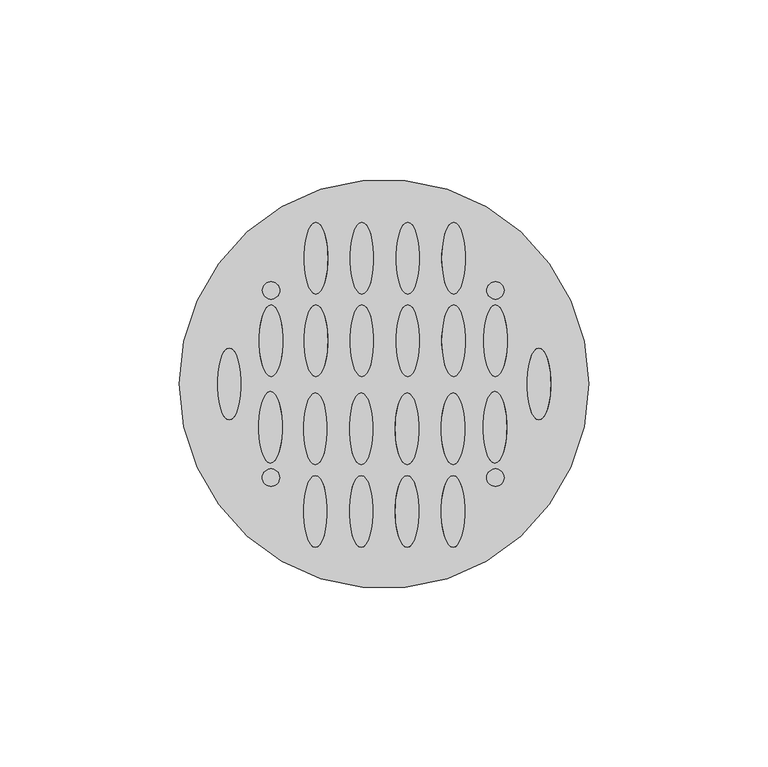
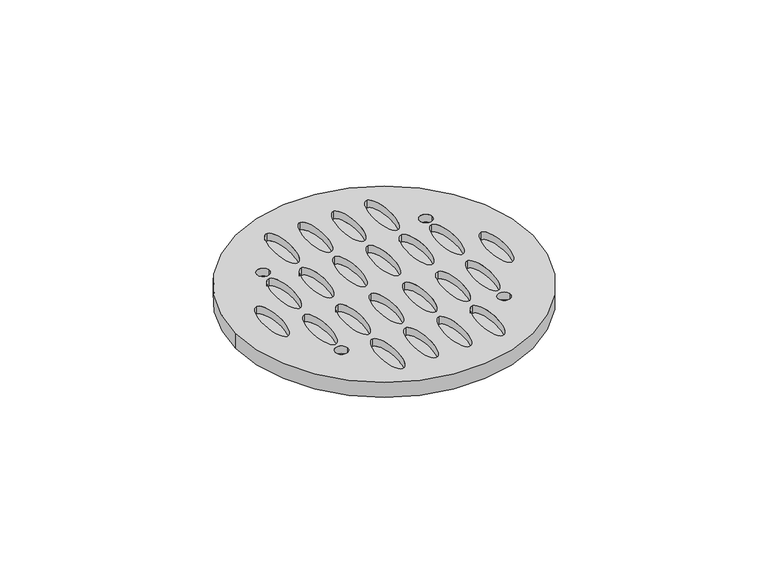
"""IFC4 building model written with IfcOpenShell, lengths in millimetres: pipe fitting geometry, AmancoWavin_Unionesdetubería_SanitarioPVCColaderaInstaRex : Cementar 110 mm."""

from ifc_helpers import new_model, si_unit, point, frame, origin, place, context, project, spatial, polyline, circle_curve, ellipse_curve, trimmed, source, transform, mapped, element, save
from ifc_brep_helpers import plane_surface, cylinder_surface, revolved_surface, extruded_surface, advanced_brep


def pipe_fitting_ac765421(model_context):
    return source(origin(), model_context, "Body", "AdvancedBrep", [
        advanced_brep(
        [(-57.0, 0.0, 11.1), (57.0, 0.0, 11.1), (-43.125, 10.0, 11.1), (-43.125, -10.0, 11.1), (-31.4848922, 22.0632684, 11.1), (-31.4848922, 2.0632684, 11.1), (-31.6489621, -2.0699379, 11.1), (-31.6489621, -22.0699379, 11.1), (-29.0574539, 26.0632635, 11.1), (-33.8998162, 26.0632635, 11.1), (-29.068906, -26.0667815, 11.1), (-33.9112683, -26.0667815, 11.1), (-18.9848922, 22.0632684, 11.1), (-18.9848922, 2.0632684, 11.1), (-19.1489621, -2.5, 11.1), (-19.1489621, -22.5, 11.1), (-18.9848922, 45.0632684, 11.1), (-18.9848922, 25.0632684, 11.1), (-19.1489621, -25.5, 11.1), (-19.1489621, -45.5, 11.1), (-6.1848922, 22.0632684, 11.1), (-6.1848922, 2.0632684, 11.1), (-6.3489621, -2.5, 11.1), (-6.3489621, -22.5, 11.1), (-6.1848922, 45.0632684, 11.1), (-6.1848922, 25.0632684, 11.1), (-6.3489621, -25.5, 11.1), (-6.3489621, -45.5, 11.1), (6.6151078, 22.0632684, 11.1), (6.6151078, 2.0632684, 11.1), (6.4510379, -2.5, 11.1), (6.4510379, -22.5, 11.1), (6.6151078, 45.0632684, 11.1), (6.6151078, 25.0632684, 11.1), (6.4510379, -25.5, 11.1), (6.4510379, -45.5, 11.1), (19.4151078, 22.0632684, 11.1), (19.4151078, 2.0632684, 11.1), (19.2510379, -2.5, 11.1), (19.2510379, -22.5, 11.1), (19.4151078, 45.0632684, 11.1), (19.4151078, 25.0632684, 11.1), (19.2510379, -25.5, 11.1), (19.2510379, -45.5, 11.1), (31.0501776, 22.0632684, 11.1), (31.0501776, 2.0632684, 11.1), (30.8861078, -2.0699379, 11.1), (30.8861078, -22.0699379, 11.1), (33.477616, 26.0632635, 11.1), (28.6352536, 26.0632635, 11.1), (33.4661638, -26.0667815, 11.1), (28.6238015, -26.0667815, 11.1), (43.1436396, 10.0, 11.1), (43.1436396, -10.0, 11.1), (-57.0, 0.0, 5.0), (57.0, 0.0, 5.0), (-43.125, -10.0, 7.9881592), (-43.125, 10.0, 7.9881592), (-31.4848922, 2.0632684, 7.9881592), (-31.4848922, 22.0632684, 7.9881592), (-31.6489621, -22.0699379, 7.9881592), (-31.6489621, -2.0699379, 7.9881592), (-33.8998162, 26.0632635, 7.9881592), (-29.0574539, 26.0632635, 7.9881592), (-33.9112683, -26.0667815, 7.9881592), (-29.068906, -26.0667815, 7.9881592), (-18.9848922, 2.0632684, 7.9881592), (-18.9848922, 22.0632684, 7.9881592), (-19.1489621, -22.5, 7.9881592), (-19.1489621, -2.5, 7.9881592), (-18.9848922, 25.0632684, 7.9881592), (-18.9848922, 45.0632684, 7.9881592), (-19.1489621, -45.5, 7.9881592), (-19.1489621, -25.5, 7.9881592), (-6.1848922, 2.0632684, 7.9881592), (-6.1848922, 22.0632684, 7.9881592), (-6.3489621, -22.5, 7.9881592), (-6.3489621, -2.5, 7.9881592), (-6.1848922, 25.0632684, 7.9881592), (-6.1848922, 45.0632684, 7.9881592), (-6.3489621, -45.5, 7.9881592), (-6.3489621, -25.5, 7.9881592), (6.6151078, 2.0632684, 7.9881592), (6.6151078, 22.0632684, 7.9881592), (6.4510379, -22.5, 7.9881592), (6.4510379, -2.5, 7.9881592), (6.6151078, 25.0632684, 7.9881592), (6.6151078, 45.0632684, 7.9881592), (6.4510379, -45.5, 7.9881592), (6.4510379, -25.5, 7.9881592), (19.4151078, 2.0632684, 7.9881592), (19.4151078, 22.0632684, 7.9881592), (19.2510379, -22.5, 7.9881592), (19.2510379, -2.5, 7.9881592), (19.4151078, 25.0632684, 7.9881592), (19.4151078, 45.0632684, 7.9881592), (19.2510379, -45.5, 7.9881592), (19.2510379, -25.5, 7.9881592), (31.0501776, 2.0632684, 7.9881592), (31.0501776, 22.0632684, 7.9881592), (30.8861078, -22.0699379, 7.9881592), (30.8861078, -2.0699379, 7.9881592), (28.6352536, 26.0632635, 7.9881592), (33.477616, 26.0632635, 7.9881592), (28.6238015, -26.0667815, 7.9881592), (33.4661638, -26.0667815, 7.9881592), (43.1436396, -10.0, 7.9881592), (43.1436396, 10.0, 7.9881592)],
        [
            (0, 1, circle_curve(frame((0.0, 0.0, 11.1), z_axis=(0.0, 0.0, 1.0), x_axis=(1.0, 0.0, 0.0)), 57.0)),
            (1, 0, circle_curve(frame((0.0, 0.0, 11.1), z_axis=(0.0, 0.0, 1.0), x_axis=(1.0, 0.0, 0.0)), 57.0)),
            (2, 3, ellipse_curve(frame((-43.125, 0.0, 11.1), z_axis=(0.0, 0.0, -1.0), x_axis=(0.0, 1.0, 0.0)), 10.0, 3.2735089)),
            (3, 2, ellipse_curve(frame((-43.125, 0.0, 11.1), z_axis=(0.0, 0.0, -1.0), x_axis=(0.0, 1.0, 0.0)), 10.0, 3.2735089)),
            (4, 5, ellipse_curve(frame((-31.4848922, 12.0632684, 11.1), z_axis=(0.0, 0.0, -1.0), x_axis=(0.0, 1.0, 0.0)), 10.0, 3.2735089)),
            (5, 4, ellipse_curve(frame((-31.4848922, 12.0632684, 11.1), z_axis=(0.0, 0.0, -1.0), x_axis=(0.0, 1.0, 0.0)), 10.0, 3.2735089)),
            (6, 7, ellipse_curve(frame((-31.6489621, -12.0699379, 11.1), z_axis=(0.0, 0.0, -1.0), x_axis=(0.0, 1.0, 0.0)), 10.0, 3.2735089)),
            (7, 6, ellipse_curve(frame((-31.6489621, -12.0699379, 11.1), z_axis=(0.0, 0.0, -1.0), x_axis=(0.0, 1.0, 0.0)), 10.0, 3.2735089)),
            (8, 9, circle_curve(frame((-31.478635, 26.0632635, 11.1), z_axis=(0.0, 0.0, -1.0), x_axis=(1.0, 0.0, 0.0)), 2.4211812)),
            (9, 8, circle_curve(frame((-31.478635, 26.0632635, 11.1), z_axis=(0.0, 0.0, -1.0), x_axis=(1.0, 0.0, 0.0)), 2.4211812)),
            (10, 11, circle_curve(frame((-31.4900871, -26.0667815, 11.1), z_axis=(0.0, 0.0, -1.0), x_axis=(1.0, 0.0, 0.0)), 2.4211812)),
            (11, 10, circle_curve(frame((-31.4900871, -26.0667815, 11.1), z_axis=(0.0, 0.0, -1.0), x_axis=(1.0, 0.0, 0.0)), 2.4211812)),
            (12, 13, ellipse_curve(frame((-18.9848922, 12.0632684, 11.1), z_axis=(0.0, 0.0, -1.0), x_axis=(0.0, 1.0, 0.0)), 10.0, 3.2735089)),
            (13, 12, ellipse_curve(frame((-18.9848922, 12.0632684, 11.1), z_axis=(0.0, 0.0, -1.0), x_axis=(0.0, 1.0, 0.0)), 10.0, 3.2735089)),
            (14, 15, ellipse_curve(frame((-19.1489621, -12.5, 11.1), z_axis=(0.0, 0.0, -1.0), x_axis=(0.0, 1.0, 0.0)), 10.0, 3.2735089)),
            (15, 14, ellipse_curve(frame((-19.1489621, -12.5, 11.1), z_axis=(0.0, 0.0, -1.0), x_axis=(0.0, 1.0, 0.0)), 10.0, 3.2735089)),
            (16, 17, ellipse_curve(frame((-18.9848922, 35.0632684, 11.1), z_axis=(0.0, 0.0, -1.0), x_axis=(0.0, 1.0, 0.0)), 10.0, 3.2735089)),
            (17, 16, ellipse_curve(frame((-18.9848922, 35.0632684, 11.1), z_axis=(0.0, 0.0, -1.0), x_axis=(0.0, 1.0, 0.0)), 10.0, 3.2735089)),
            (18, 19, ellipse_curve(frame((-19.1489621, -35.5, 11.1), z_axis=(0.0, 0.0, -1.0), x_axis=(0.0, 1.0, 0.0)), 10.0, 3.2735089)),
            (19, 18, ellipse_curve(frame((-19.1489621, -35.5, 11.1), z_axis=(0.0, 0.0, -1.0), x_axis=(0.0, 1.0, 0.0)), 10.0, 3.2735089)),
            (20, 21, ellipse_curve(frame((-6.1848922, 12.0632684, 11.1), z_axis=(0.0, 0.0, -1.0), x_axis=(0.0, 1.0, 0.0)), 10.0, 3.2735089)),
            (21, 20, ellipse_curve(frame((-6.1848922, 12.0632684, 11.1), z_axis=(0.0, 0.0, -1.0), x_axis=(0.0, 1.0, 0.0)), 10.0, 3.2735089)),
            (22, 23, ellipse_curve(frame((-6.3489621, -12.5, 11.1), z_axis=(0.0, 0.0, -1.0), x_axis=(0.0, 1.0, 0.0)), 10.0, 3.2735089)),
            (23, 22, ellipse_curve(frame((-6.3489621, -12.5, 11.1), z_axis=(0.0, 0.0, -1.0), x_axis=(0.0, 1.0, 0.0)), 10.0, 3.2735089)),
            (24, 25, ellipse_curve(frame((-6.1848922, 35.0632684, 11.1), z_axis=(0.0, 0.0, -1.0), x_axis=(0.0, 1.0, 0.0)), 10.0, 3.2735089)),
            (25, 24, ellipse_curve(frame((-6.1848922, 35.0632684, 11.1), z_axis=(0.0, 0.0, -1.0), x_axis=(0.0, 1.0, 0.0)), 10.0, 3.2735089)),
            (26, 27, ellipse_curve(frame((-6.3489621, -35.5, 11.1), z_axis=(0.0, 0.0, -1.0), x_axis=(0.0, 1.0, 0.0)), 10.0, 3.2735089)),
            (27, 26, ellipse_curve(frame((-6.3489621, -35.5, 11.1), z_axis=(0.0, 0.0, -1.0), x_axis=(0.0, 1.0, 0.0)), 10.0, 3.2735089)),
            (28, 29, ellipse_curve(frame((6.6151078, 12.0632684, 11.1), z_axis=(0.0, 0.0, -1.0), x_axis=(0.0, 1.0, 0.0)), 10.0, 3.2735089)),
            (29, 28, ellipse_curve(frame((6.6151078, 12.0632684, 11.1), z_axis=(0.0, 0.0, -1.0), x_axis=(0.0, 1.0, 0.0)), 10.0, 3.2735089)),
            (30, 31, ellipse_curve(frame((6.4510379, -12.5, 11.1), z_axis=(0.0, 0.0, -1.0), x_axis=(0.0, 1.0, 0.0)), 10.0, 3.2735089)),
            (31, 30, ellipse_curve(frame((6.4510379, -12.5, 11.1), z_axis=(0.0, 0.0, -1.0), x_axis=(0.0, 1.0, 0.0)), 10.0, 3.2735089)),
            (32, 33, ellipse_curve(frame((6.6151078, 35.0632684, 11.1), z_axis=(0.0, 0.0, -1.0), x_axis=(0.0, 1.0, 0.0)), 10.0, 3.2735089)),
            (33, 32, ellipse_curve(frame((6.6151078, 35.0632684, 11.1), z_axis=(0.0, 0.0, -1.0), x_axis=(0.0, 1.0, 0.0)), 10.0, 3.2735089)),
            (34, 35, ellipse_curve(frame((6.4510379, -35.5, 11.1), z_axis=(0.0, 0.0, -1.0), x_axis=(0.0, 1.0, 0.0)), 10.0, 3.2735089)),
            (35, 34, ellipse_curve(frame((6.4510379, -35.5, 11.1), z_axis=(0.0, 0.0, -1.0), x_axis=(0.0, 1.0, 0.0)), 10.0, 3.2735089)),
            (36, 37, ellipse_curve(frame((19.4151078, 12.0632684, 11.1), z_axis=(0.0, 0.0, -1.0), x_axis=(0.0, 1.0, 0.0)), 10.0, 3.2735089)),
            (37, 36, ellipse_curve(frame((19.4151078, 12.0632684, 11.1), z_axis=(0.0, 0.0, -1.0), x_axis=(0.0, 1.0, 0.0)), 10.0, 3.2735089)),
            (38, 39, ellipse_curve(frame((19.2510379, -12.5, 11.1), z_axis=(0.0, 0.0, -1.0), x_axis=(0.0, 1.0, 0.0)), 10.0, 3.2735089)),
            (39, 38, ellipse_curve(frame((19.2510379, -12.5, 11.1), z_axis=(0.0, 0.0, -1.0), x_axis=(0.0, 1.0, 0.0)), 10.0, 3.2735089)),
            (40, 41, ellipse_curve(frame((19.4151078, 35.0632684, 11.1), z_axis=(0.0, 0.0, -1.0), x_axis=(0.0, 1.0, 0.0)), 10.0, 3.2735089)),
            (41, 40, ellipse_curve(frame((19.4151078, 35.0632684, 11.1), z_axis=(0.0, 0.0, -1.0), x_axis=(0.0, 1.0, 0.0)), 10.0, 3.2735089)),
            (42, 43, ellipse_curve(frame((19.2510379, -35.5, 11.1), z_axis=(0.0, 0.0, -1.0), x_axis=(0.0, 1.0, 0.0)), 10.0, 3.2735089)),
            (43, 42, ellipse_curve(frame((19.2510379, -35.5, 11.1), z_axis=(0.0, 0.0, -1.0), x_axis=(0.0, 1.0, 0.0)), 10.0, 3.2735089)),
            (44, 45, ellipse_curve(frame((31.0501776, 12.0632684, 11.1), z_axis=(0.0, 0.0, -1.0), x_axis=(0.0, 1.0, 0.0)), 10.0, 3.2735089)),
            (45, 44, ellipse_curve(frame((31.0501776, 12.0632684, 11.1), z_axis=(0.0, 0.0, -1.0), x_axis=(0.0, 1.0, 0.0)), 10.0, 3.2735089)),
            (46, 47, ellipse_curve(frame((30.8861078, -12.0699379, 11.1), z_axis=(0.0, 0.0, -1.0), x_axis=(0.0, 1.0, 0.0)), 10.0, 3.2735089)),
            (47, 46, ellipse_curve(frame((30.8861078, -12.0699379, 11.1), z_axis=(0.0, 0.0, -1.0), x_axis=(0.0, 1.0, 0.0)), 10.0, 3.2735089)),
            (48, 49, circle_curve(frame((31.0564348, 26.0632635, 11.1), z_axis=(0.0, 0.0, -1.0), x_axis=(1.0, 0.0, 0.0)), 2.4211812)),
            (49, 48, circle_curve(frame((31.0564348, 26.0632635, 11.1), z_axis=(0.0, 0.0, -1.0), x_axis=(1.0, 0.0, 0.0)), 2.4211812)),
            (50, 51, circle_curve(frame((31.0449827, -26.0667815, 11.1), z_axis=(0.0, 0.0, -1.0), x_axis=(1.0, 0.0, 0.0)), 2.4211812)),
            (51, 50, circle_curve(frame((31.0449827, -26.0667815, 11.1), z_axis=(0.0, 0.0, -1.0), x_axis=(1.0, 0.0, 0.0)), 2.4211812)),
            (52, 53, ellipse_curve(frame((43.1436396, 0.0, 11.1), z_axis=(0.0, 0.0, -1.0), x_axis=(0.0, 1.0, 0.0)), 10.0, 3.2735089)),
            (53, 52, ellipse_curve(frame((43.1436396, 0.0, 11.1), z_axis=(0.0, 0.0, -1.0), x_axis=(0.0, 1.0, 0.0)), 10.0, 3.2735089)),
            (54, 55, circle_curve(frame((0.0, 0.0, 5.0), z_axis=(0.0, 0.0, -1.0), x_axis=(1.0, 0.0, 0.0)), 57.0)),
            (55, 54, circle_curve(frame((0.0, 0.0, 5.0), z_axis=(0.0, 0.0, -1.0), x_axis=(1.0, 0.0, 0.0)), 57.0)),
            (0, 54),
            (55, 1),
            (56, 57, ellipse_curve(frame((-43.125, 0.0, 7.9881592), z_axis=(0.0, 0.0, 1.0), x_axis=(0.0, 1.0, 0.0)), 10.0, 3.2735089)),
            (57, 56, ellipse_curve(frame((-43.125, 0.0, 7.9881592), z_axis=(0.0, 0.0, 1.0), x_axis=(0.0, 1.0, 0.0)), 10.0, 3.2735089)),
            (58, 59, ellipse_curve(frame((-31.4848922, 12.0632684, 7.9881592), z_axis=(0.0, 0.0, 1.0), x_axis=(0.0, 1.0, 0.0)), 10.0, 3.2735089)),
            (59, 58, ellipse_curve(frame((-31.4848922, 12.0632684, 7.9881592), z_axis=(0.0, 0.0, 1.0), x_axis=(0.0, 1.0, 0.0)), 10.0, 3.2735089)),
            (60, 61, ellipse_curve(frame((-31.6489621, -12.0699379, 7.9881592), z_axis=(0.0, 0.0, 1.0), x_axis=(0.0, 1.0, 0.0)), 10.0, 3.2735089)),
            (61, 60, ellipse_curve(frame((-31.6489621, -12.0699379, 7.9881592), z_axis=(0.0, 0.0, 1.0), x_axis=(0.0, 1.0, 0.0)), 10.0, 3.2735089)),
            (62, 63, circle_curve(frame((-31.478635, 26.0632635, 7.9881592), z_axis=(0.0, 0.0, 1.0), x_axis=(1.0, 0.0, 0.0)), 2.4211812)),
            (63, 62, circle_curve(frame((-31.478635, 26.0632635, 7.9881592), z_axis=(0.0, 0.0, 1.0), x_axis=(1.0, 0.0, 0.0)), 2.4211812)),
            (64, 65, circle_curve(frame((-31.4900871, -26.0667815, 7.9881592), z_axis=(0.0, 0.0, 1.0), x_axis=(1.0, 0.0, 0.0)), 2.4211812)),
            (65, 64, circle_curve(frame((-31.4900871, -26.0667815, 7.9881592), z_axis=(0.0, 0.0, 1.0), x_axis=(1.0, 0.0, 0.0)), 2.4211812)),
            (66, 67, ellipse_curve(frame((-18.9848922, 12.0632684, 7.9881592), z_axis=(0.0, 0.0, 1.0), x_axis=(0.0, 1.0, 0.0)), 10.0, 3.2735089)),
            (67, 66, ellipse_curve(frame((-18.9848922, 12.0632684, 7.9881592), z_axis=(0.0, 0.0, 1.0), x_axis=(0.0, 1.0, 0.0)), 10.0, 3.2735089)),
            (68, 69, ellipse_curve(frame((-19.1489621, -12.5, 7.9881592), z_axis=(0.0, 0.0, 1.0), x_axis=(0.0, 1.0, 0.0)), 10.0, 3.2735089)),
            (69, 68, ellipse_curve(frame((-19.1489621, -12.5, 7.9881592), z_axis=(0.0, 0.0, 1.0), x_axis=(0.0, 1.0, 0.0)), 10.0, 3.2735089)),
            (70, 71, ellipse_curve(frame((-18.9848922, 35.0632684, 7.9881592), z_axis=(0.0, 0.0, 1.0), x_axis=(0.0, 1.0, 0.0)), 10.0, 3.2735089)),
            (71, 70, ellipse_curve(frame((-18.9848922, 35.0632684, 7.9881592), z_axis=(0.0, 0.0, 1.0), x_axis=(0.0, 1.0, 0.0)), 10.0, 3.2735089)),
            (72, 73, ellipse_curve(frame((-19.1489621, -35.5, 7.9881592), z_axis=(0.0, 0.0, 1.0), x_axis=(0.0, 1.0, 0.0)), 10.0, 3.2735089)),
            (73, 72, ellipse_curve(frame((-19.1489621, -35.5, 7.9881592), z_axis=(0.0, 0.0, 1.0), x_axis=(0.0, 1.0, 0.0)), 10.0, 3.2735089)),
            (74, 75, ellipse_curve(frame((-6.1848922, 12.0632684, 7.9881592), z_axis=(0.0, 0.0, 1.0), x_axis=(0.0, 1.0, 0.0)), 10.0, 3.2735089)),
            (75, 74, ellipse_curve(frame((-6.1848922, 12.0632684, 7.9881592), z_axis=(0.0, 0.0, 1.0), x_axis=(0.0, 1.0, 0.0)), 10.0, 3.2735089)),
            (76, 77, ellipse_curve(frame((-6.3489621, -12.5, 7.9881592), z_axis=(0.0, 0.0, 1.0), x_axis=(0.0, 1.0, 0.0)), 10.0, 3.2735089)),
            (77, 76, ellipse_curve(frame((-6.3489621, -12.5, 7.9881592), z_axis=(0.0, 0.0, 1.0), x_axis=(0.0, 1.0, 0.0)), 10.0, 3.2735089)),
            (78, 79, ellipse_curve(frame((-6.1848922, 35.0632684, 7.9881592), z_axis=(0.0, 0.0, 1.0), x_axis=(0.0, 1.0, 0.0)), 10.0, 3.2735089)),
            (79, 78, ellipse_curve(frame((-6.1848922, 35.0632684, 7.9881592), z_axis=(0.0, 0.0, 1.0), x_axis=(0.0, 1.0, 0.0)), 10.0, 3.2735089)),
            (80, 81, ellipse_curve(frame((-6.3489621, -35.5, 7.9881592), z_axis=(0.0, 0.0, 1.0), x_axis=(0.0, 1.0, 0.0)), 10.0, 3.2735089)),
            (81, 80, ellipse_curve(frame((-6.3489621, -35.5, 7.9881592), z_axis=(0.0, 0.0, 1.0), x_axis=(0.0, 1.0, 0.0)), 10.0, 3.2735089)),
            (82, 83, ellipse_curve(frame((6.6151078, 12.0632684, 7.9881592), z_axis=(0.0, 0.0, 1.0), x_axis=(0.0, 1.0, 0.0)), 10.0, 3.2735089)),
            (83, 82, ellipse_curve(frame((6.6151078, 12.0632684, 7.9881592), z_axis=(0.0, 0.0, 1.0), x_axis=(0.0, 1.0, 0.0)), 10.0, 3.2735089)),
            (84, 85, ellipse_curve(frame((6.4510379, -12.5, 7.9881592), z_axis=(0.0, 0.0, 1.0), x_axis=(0.0, 1.0, 0.0)), 10.0, 3.2735089)),
            (85, 84, ellipse_curve(frame((6.4510379, -12.5, 7.9881592), z_axis=(0.0, 0.0, 1.0), x_axis=(0.0, 1.0, 0.0)), 10.0, 3.2735089)),
            (86, 87, ellipse_curve(frame((6.6151078, 35.0632684, 7.9881592), z_axis=(0.0, 0.0, 1.0), x_axis=(0.0, 1.0, 0.0)), 10.0, 3.2735089)),
            (87, 86, ellipse_curve(frame((6.6151078, 35.0632684, 7.9881592), z_axis=(0.0, 0.0, 1.0), x_axis=(0.0, 1.0, 0.0)), 10.0, 3.2735089)),
            (88, 89, ellipse_curve(frame((6.4510379, -35.5, 7.9881592), z_axis=(0.0, 0.0, 1.0), x_axis=(0.0, 1.0, 0.0)), 10.0, 3.2735089)),
            (89, 88, ellipse_curve(frame((6.4510379, -35.5, 7.9881592), z_axis=(0.0, 0.0, 1.0), x_axis=(0.0, 1.0, 0.0)), 10.0, 3.2735089)),
            (90, 91, ellipse_curve(frame((19.4151078, 12.0632684, 7.9881592), z_axis=(0.0, 0.0, 1.0), x_axis=(0.0, 1.0, 0.0)), 10.0, 3.2735089)),
            (91, 90, ellipse_curve(frame((19.4151078, 12.0632684, 7.9881592), z_axis=(0.0, 0.0, 1.0), x_axis=(0.0, 1.0, 0.0)), 10.0, 3.2735089)),
            (92, 93, ellipse_curve(frame((19.2510379, -12.5, 7.9881592), z_axis=(0.0, 0.0, 1.0), x_axis=(0.0, 1.0, 0.0)), 10.0, 3.2735089)),
            (93, 92, ellipse_curve(frame((19.2510379, -12.5, 7.9881592), z_axis=(0.0, 0.0, 1.0), x_axis=(0.0, 1.0, 0.0)), 10.0, 3.2735089)),
            (94, 95, ellipse_curve(frame((19.4151078, 35.0632684, 7.9881592), z_axis=(0.0, 0.0, 1.0), x_axis=(0.0, 1.0, 0.0)), 10.0, 3.2735089)),
            (95, 94, ellipse_curve(frame((19.4151078, 35.0632684, 7.9881592), z_axis=(0.0, 0.0, 1.0), x_axis=(0.0, 1.0, 0.0)), 10.0, 3.2735089)),
            (96, 97, ellipse_curve(frame((19.2510379, -35.5, 7.9881592), z_axis=(0.0, 0.0, 1.0), x_axis=(0.0, 1.0, 0.0)), 10.0, 3.2735089)),
            (97, 96, ellipse_curve(frame((19.2510379, -35.5, 7.9881592), z_axis=(0.0, 0.0, 1.0), x_axis=(0.0, 1.0, 0.0)), 10.0, 3.2735089)),
            (98, 99, ellipse_curve(frame((31.0501776, 12.0632684, 7.9881592), z_axis=(0.0, 0.0, 1.0), x_axis=(0.0, 1.0, 0.0)), 10.0, 3.2735089)),
            (99, 98, ellipse_curve(frame((31.0501776, 12.0632684, 7.9881592), z_axis=(0.0, 0.0, 1.0), x_axis=(0.0, 1.0, 0.0)), 10.0, 3.2735089)),
            (100, 101, ellipse_curve(frame((30.8861078, -12.0699379, 7.9881592), z_axis=(0.0, 0.0, 1.0), x_axis=(0.0, 1.0, 0.0)), 10.0, 3.2735089)),
            (101, 100, ellipse_curve(frame((30.8861078, -12.0699379, 7.9881592), z_axis=(0.0, 0.0, 1.0), x_axis=(0.0, 1.0, 0.0)), 10.0, 3.2735089)),
            (102, 103, circle_curve(frame((31.0564348, 26.0632635, 7.9881592), z_axis=(0.0, 0.0, 1.0), x_axis=(1.0, 0.0, 0.0)), 2.4211812)),
            (103, 102, circle_curve(frame((31.0564348, 26.0632635, 7.9881592), z_axis=(0.0, 0.0, 1.0), x_axis=(1.0, 0.0, 0.0)), 2.4211812)),
            (104, 105, circle_curve(frame((31.0449827, -26.0667815, 7.9881592), z_axis=(0.0, 0.0, 1.0), x_axis=(1.0, 0.0, 0.0)), 2.4211812)),
            (105, 104, circle_curve(frame((31.0449827, -26.0667815, 7.9881592), z_axis=(0.0, 0.0, 1.0), x_axis=(1.0, 0.0, 0.0)), 2.4211812)),
            (106, 107, ellipse_curve(frame((43.1436396, 0.0, 7.9881592), z_axis=(0.0, 0.0, 1.0), x_axis=(0.0, 1.0, 0.0)), 10.0, 3.2735089)),
            (107, 106, ellipse_curve(frame((43.1436396, 0.0, 7.9881592), z_axis=(0.0, 0.0, 1.0), x_axis=(0.0, 1.0, 0.0)), 10.0, 3.2735089)),
            (56, 3),
            (2, 57),
            (58, 5),
            (4, 59),
            (60, 7),
            (6, 61),
            (62, 9),
            (8, 63),
            (64, 11),
            (10, 65),
            (66, 13),
            (12, 67),
            (68, 15),
            (14, 69),
            (70, 17),
            (16, 71),
            (72, 19),
            (18, 73),
            (74, 21),
            (20, 75),
            (76, 23),
            (22, 77),
            (78, 25),
            (24, 79),
            (80, 27),
            (26, 81),
            (82, 29),
            (28, 83),
            (84, 31),
            (30, 85),
            (86, 33),
            (32, 87),
            (88, 35),
            (34, 89),
            (90, 37),
            (36, 91),
            (92, 39),
            (38, 93),
            (94, 41),
            (40, 95),
            (96, 43),
            (42, 97),
            (98, 45),
            (44, 99),
            (100, 47),
            (46, 101),
            (102, 49),
            (48, 103),
            (104, 51),
            (50, 105),
            (106, 53),
            (52, 107),
        ],
        [
            plane_surface(frame((57.0, 0.0, 11.1), z_axis=(0.0, 0.0, 1.0), x_axis=(0.0, 1.0, 0.0))),
            plane_surface(frame((57.0, 0.0, 5.0), z_axis=(0.0, 0.0, -1.0), x_axis=(0.0, -1.0, 0.0))),
            cylinder_surface(frame((0.0, 0.0, 5.0), z_axis=(0.0, 0.0, 1.0), x_axis=(1.0, 0.0, 0.0)), 57.0),
            plane_surface(frame((-43.125, 10.0, 7.9881592), z_axis=(0.0, 0.0, 1.0), x_axis=(1.0, 0.0, 0.0))),
            extruded_surface(trimmed(ellipse_curve(frame((-43.125, 0.0, 7.9881592), z_axis=(0.0, 0.0, 1.0), x_axis=(0.0, 1.0, 0.0)), 10.0, 3.2735089), [point((-43.125, -10.0, 7.9881592))], [point((-43.125, 10.0, 7.9881592))], True, "CARTESIAN"), (0.0, 0.0, -3.0118408), 3.0118408),
            extruded_surface(trimmed(ellipse_curve(frame((-43.125, 0.0, 7.9881592), z_axis=(0.0, 0.0, 1.0), x_axis=(0.0, 1.0, 0.0)), 10.0, 3.2735089), [point((-43.125, 10.0, 7.9881592))], [point((-43.125, -10.0, 7.9881592))], True, "CARTESIAN"), (0.0, 0.0, -3.0118408), 3.0118408),
            extruded_surface(trimmed(ellipse_curve(frame((-31.4848922, 12.0632684, 11.0), z_axis=(0.0, 0.0, 1.0), x_axis=(0.0, 1.0, 0.0)), 10.0, 3.2735089), [point((-31.4848922, 2.0632684, 11.0))], [point((-31.4848922, 22.0632684, 11.0))], True, "CARTESIAN"), (0.0, 0.0, -3.0118408), 3.0118408),
            extruded_surface(trimmed(ellipse_curve(frame((-31.4848922, 12.0632684, 11.0), z_axis=(0.0, 0.0, 1.0), x_axis=(0.0, 1.0, 0.0)), 10.0, 3.2735089), [point((-31.4848922, 22.0632684, 11.0))], [point((-31.4848922, 2.0632684, 11.0))], True, "CARTESIAN"), (0.0, 0.0, -3.0118408), 3.0118408),
            extruded_surface(trimmed(ellipse_curve(frame((-31.6489621, -12.0699379, 11.0), z_axis=(0.0, 0.0, 1.0), x_axis=(0.0, 1.0, 0.0)), 10.0, 3.2735089), [point((-31.6489621, -22.0699379, 11.0))], [point((-31.6489621, -2.0699379, 11.0))], True, "CARTESIAN"), (0.0, 0.0, -3.0118408), 3.0118408),
            extruded_surface(trimmed(ellipse_curve(frame((-31.6489621, -12.0699379, 11.0), z_axis=(0.0, 0.0, 1.0), x_axis=(0.0, 1.0, 0.0)), 10.0, 3.2735089), [point((-31.6489621, -2.0699379, 11.0))], [point((-31.6489621, -22.0699379, 11.0))], True, "CARTESIAN"), (0.0, 0.0, -3.0118408), 3.0118408),
            revolved_surface(polyline([(-29.0574538, 26.0632635, 11.1), (-29.0574538, 26.0632635, 7.9881592)]), (-31.478635, 26.0632635, 11.0), (0.0, 0.0, 1.0)),
            revolved_surface(polyline([(-29.0689059, -26.0667815, 11.1), (-29.0689059, -26.0667815, 7.9881592)]), (-31.4900871, -26.0667815, 11.0), (0.0, 0.0, 1.0)),
            extruded_surface(trimmed(ellipse_curve(frame((-18.9848922, 12.0632684, 11.0), z_axis=(0.0, 0.0, 1.0), x_axis=(0.0, 1.0, 0.0)), 10.0, 3.2735089), [point((-18.9848922, 2.0632684, 11.0))], [point((-18.9848922, 22.0632684, 11.0))], True, "CARTESIAN"), (0.0, 0.0, -3.0118408), 3.0118408),
            extruded_surface(trimmed(ellipse_curve(frame((-18.9848922, 12.0632684, 11.0), z_axis=(0.0, 0.0, 1.0), x_axis=(0.0, 1.0, 0.0)), 10.0, 3.2735089), [point((-18.9848922, 22.0632684, 11.0))], [point((-18.9848922, 2.0632684, 11.0))], True, "CARTESIAN"), (0.0, 0.0, -3.0118408), 3.0118408),
            extruded_surface(trimmed(ellipse_curve(frame((-19.1489621, -12.5, 11.0), z_axis=(0.0, 0.0, 1.0), x_axis=(0.0, 1.0, 0.0)), 10.0, 3.2735089), [point((-19.1489621, -22.5, 11.0))], [point((-19.1489621, -2.5, 11.0))], True, "CARTESIAN"), (0.0, 0.0, -3.0118408), 3.0118408),
            extruded_surface(trimmed(ellipse_curve(frame((-19.1489621, -12.5, 11.0), z_axis=(0.0, 0.0, 1.0), x_axis=(0.0, 1.0, 0.0)), 10.0, 3.2735089), [point((-19.1489621, -2.5, 11.0))], [point((-19.1489621, -22.5, 11.0))], True, "CARTESIAN"), (0.0, 0.0, -3.0118408), 3.0118408),
            extruded_surface(trimmed(ellipse_curve(frame((-18.9848922, 35.0632684, 11.0), z_axis=(0.0, 0.0, 1.0), x_axis=(0.0, 1.0, 0.0)), 10.0, 3.2735089), [point((-18.9848922, 25.0632684, 11.0))], [point((-18.9848922, 45.0632684, 11.0))], True, "CARTESIAN"), (0.0, 0.0, -3.0118408), 3.0118408),
            extruded_surface(trimmed(ellipse_curve(frame((-18.9848922, 35.0632684, 11.0), z_axis=(0.0, 0.0, 1.0), x_axis=(0.0, 1.0, 0.0)), 10.0, 3.2735089), [point((-18.9848922, 45.0632684, 11.0))], [point((-18.9848922, 25.0632684, 11.0))], True, "CARTESIAN"), (0.0, 0.0, -3.0118408), 3.0118408),
            extruded_surface(trimmed(ellipse_curve(frame((-19.1489621, -35.5, 11.0), z_axis=(0.0, 0.0, 1.0), x_axis=(0.0, 1.0, 0.0)), 10.0, 3.2735089), [point((-19.1489621, -45.5, 11.0))], [point((-19.1489621, -25.5, 11.0))], True, "CARTESIAN"), (0.0, 0.0, -3.0118408), 3.0118408),
            extruded_surface(trimmed(ellipse_curve(frame((-19.1489621, -35.5, 11.0), z_axis=(0.0, 0.0, 1.0), x_axis=(0.0, 1.0, 0.0)), 10.0, 3.2735089), [point((-19.1489621, -25.5, 11.0))], [point((-19.1489621, -45.5, 11.0))], True, "CARTESIAN"), (0.0, 0.0, -3.0118408), 3.0118408),
            extruded_surface(trimmed(ellipse_curve(frame((-6.1848922, 12.0632684, 11.0), z_axis=(0.0, 0.0, 1.0), x_axis=(0.0, 1.0, 0.0)), 10.0, 3.2735089), [point((-6.1848922, 2.0632684, 11.0))], [point((-6.1848922, 22.0632684, 11.0))], True, "CARTESIAN"), (0.0, 0.0, -3.0118408), 3.0118408),
            extruded_surface(trimmed(ellipse_curve(frame((-6.1848922, 12.0632684, 11.0), z_axis=(0.0, 0.0, 1.0), x_axis=(0.0, 1.0, 0.0)), 10.0, 3.2735089), [point((-6.1848922, 22.0632684, 11.0))], [point((-6.1848922, 2.0632684, 11.0))], True, "CARTESIAN"), (0.0, 0.0, -3.0118408), 3.0118408),
            extruded_surface(trimmed(ellipse_curve(frame((-6.3489621, -12.5, 11.0), z_axis=(0.0, 0.0, 1.0), x_axis=(0.0, 1.0, 0.0)), 10.0, 3.2735089), [point((-6.3489621, -22.5, 11.0))], [point((-6.3489621, -2.5, 11.0))], True, "CARTESIAN"), (0.0, 0.0, -3.0118408), 3.0118408),
            extruded_surface(trimmed(ellipse_curve(frame((-6.3489621, -12.5, 11.0), z_axis=(0.0, 0.0, 1.0), x_axis=(0.0, 1.0, 0.0)), 10.0, 3.2735089), [point((-6.3489621, -2.5, 11.0))], [point((-6.3489621, -22.5, 11.0))], True, "CARTESIAN"), (0.0, 0.0, -3.0118408), 3.0118408),
            extruded_surface(trimmed(ellipse_curve(frame((-6.1848922, 35.0632684, 11.0), z_axis=(0.0, 0.0, 1.0), x_axis=(0.0, 1.0, 0.0)), 10.0, 3.2735089), [point((-6.1848922, 25.0632684, 11.0))], [point((-6.1848922, 45.0632684, 11.0))], True, "CARTESIAN"), (0.0, 0.0, -3.0118408), 3.0118408),
            extruded_surface(trimmed(ellipse_curve(frame((-6.1848922, 35.0632684, 11.0), z_axis=(0.0, 0.0, 1.0), x_axis=(0.0, 1.0, 0.0)), 10.0, 3.2735089), [point((-6.1848922, 45.0632684, 11.0))], [point((-6.1848922, 25.0632684, 11.0))], True, "CARTESIAN"), (0.0, 0.0, -3.0118408), 3.0118408),
            extruded_surface(trimmed(ellipse_curve(frame((-6.3489621, -35.5, 11.0), z_axis=(0.0, 0.0, 1.0), x_axis=(0.0, 1.0, 0.0)), 10.0, 3.2735089), [point((-6.3489621, -45.5, 11.0))], [point((-6.3489621, -25.5, 11.0))], True, "CARTESIAN"), (0.0, 0.0, -3.0118408), 3.0118408),
            extruded_surface(trimmed(ellipse_curve(frame((-6.3489621, -35.5, 11.0), z_axis=(0.0, 0.0, 1.0), x_axis=(0.0, 1.0, 0.0)), 10.0, 3.2735089), [point((-6.3489621, -25.5, 11.0))], [point((-6.3489621, -45.5, 11.0))], True, "CARTESIAN"), (0.0, 0.0, -3.0118408), 3.0118408),
            extruded_surface(trimmed(ellipse_curve(frame((6.6151078, 12.0632684, 11.0), z_axis=(0.0, 0.0, 1.0), x_axis=(0.0, 1.0, 0.0)), 10.0, 3.2735089), [point((6.6151078, 2.0632684, 11.0))], [point((6.6151078, 22.0632684, 11.0))], True, "CARTESIAN"), (0.0, 0.0, -3.0118408), 3.0118408),
            extruded_surface(trimmed(ellipse_curve(frame((6.6151078, 12.0632684, 11.0), z_axis=(0.0, 0.0, 1.0), x_axis=(0.0, 1.0, 0.0)), 10.0, 3.2735089), [point((6.6151078, 22.0632684, 11.0))], [point((6.6151078, 2.0632684, 11.0))], True, "CARTESIAN"), (0.0, 0.0, -3.0118408), 3.0118408),
            extruded_surface(trimmed(ellipse_curve(frame((6.4510379, -12.5, 11.0), z_axis=(0.0, 0.0, 1.0), x_axis=(0.0, 1.0, 0.0)), 10.0, 3.2735089), [point((6.4510379, -22.5, 11.0))], [point((6.4510379, -2.5, 11.0))], True, "CARTESIAN"), (0.0, 0.0, -3.0118408), 3.0118408),
            extruded_surface(trimmed(ellipse_curve(frame((6.4510379, -12.5, 11.0), z_axis=(0.0, 0.0, 1.0), x_axis=(0.0, 1.0, 0.0)), 10.0, 3.2735089), [point((6.4510379, -2.5, 11.0))], [point((6.4510379, -22.5, 11.0))], True, "CARTESIAN"), (0.0, 0.0, -3.0118408), 3.0118408),
            extruded_surface(trimmed(ellipse_curve(frame((6.6151078, 35.0632684, 11.0), z_axis=(0.0, 0.0, 1.0), x_axis=(0.0, 1.0, 0.0)), 10.0, 3.2735089), [point((6.6151078, 25.0632684, 11.0))], [point((6.6151078, 45.0632684, 11.0))], True, "CARTESIAN"), (0.0, 0.0, -3.0118408), 3.0118408),
            extruded_surface(trimmed(ellipse_curve(frame((6.6151078, 35.0632684, 11.0), z_axis=(0.0, 0.0, 1.0), x_axis=(0.0, 1.0, 0.0)), 10.0, 3.2735089), [point((6.6151078, 45.0632684, 11.0))], [point((6.6151078, 25.0632684, 11.0))], True, "CARTESIAN"), (0.0, 0.0, -3.0118408), 3.0118408),
            extruded_surface(trimmed(ellipse_curve(frame((6.4510379, -35.5, 11.0), z_axis=(0.0, 0.0, 1.0), x_axis=(0.0, 1.0, 0.0)), 10.0, 3.2735089), [point((6.4510379, -45.5, 11.0))], [point((6.4510379, -25.5, 11.0))], True, "CARTESIAN"), (0.0, 0.0, -3.0118408), 3.0118408),
            extruded_surface(trimmed(ellipse_curve(frame((6.4510379, -35.5, 11.0), z_axis=(0.0, 0.0, 1.0), x_axis=(0.0, 1.0, 0.0)), 10.0, 3.2735089), [point((6.4510379, -25.5, 11.0))], [point((6.4510379, -45.5, 11.0))], True, "CARTESIAN"), (0.0, 0.0, -3.0118408), 3.0118408),
            extruded_surface(trimmed(ellipse_curve(frame((19.4151078, 12.0632684, 11.0), z_axis=(0.0, 0.0, 1.0), x_axis=(0.0, 1.0, 0.0)), 10.0, 3.2735089), [point((19.4151078, 2.0632684, 11.0))], [point((19.4151078, 22.0632684, 11.0))], True, "CARTESIAN"), (0.0, 0.0, -3.0118408), 3.0118408),
            extruded_surface(trimmed(ellipse_curve(frame((19.4151078, 12.0632684, 11.0), z_axis=(0.0, 0.0, 1.0), x_axis=(0.0, 1.0, 0.0)), 10.0, 3.2735089), [point((19.4151078, 22.0632684, 11.0))], [point((19.4151078, 2.0632684, 11.0))], True, "CARTESIAN"), (0.0, 0.0, -3.0118408), 3.0118408),
            extruded_surface(trimmed(ellipse_curve(frame((19.2510379, -12.5, 11.0), z_axis=(0.0, 0.0, 1.0), x_axis=(0.0, 1.0, 0.0)), 10.0, 3.2735089), [point((19.2510379, -22.5, 11.0))], [point((19.2510379, -2.5, 11.0))], True, "CARTESIAN"), (0.0, 0.0, -3.0118408), 3.0118408),
            extruded_surface(trimmed(ellipse_curve(frame((19.2510379, -12.5, 11.0), z_axis=(0.0, 0.0, 1.0), x_axis=(0.0, 1.0, 0.0)), 10.0, 3.2735089), [point((19.2510379, -2.5, 11.0))], [point((19.2510379, -22.5, 11.0))], True, "CARTESIAN"), (0.0, 0.0, -3.0118408), 3.0118408),
            extruded_surface(trimmed(ellipse_curve(frame((19.4151078, 35.0632684, 11.0), z_axis=(0.0, 0.0, 1.0), x_axis=(0.0, 1.0, 0.0)), 10.0, 3.2735089), [point((19.4151078, 25.0632684, 11.0))], [point((19.4151078, 45.0632684, 11.0))], True, "CARTESIAN"), (0.0, 0.0, -3.0118408), 3.0118408),
            extruded_surface(trimmed(ellipse_curve(frame((19.4151078, 35.0632684, 11.0), z_axis=(0.0, 0.0, 1.0), x_axis=(0.0, 1.0, 0.0)), 10.0, 3.2735089), [point((19.4151078, 45.0632684, 11.0))], [point((19.4151078, 25.0632684, 11.0))], True, "CARTESIAN"), (0.0, 0.0, -3.0118408), 3.0118408),
            extruded_surface(trimmed(ellipse_curve(frame((19.2510379, -35.5, 11.0), z_axis=(0.0, 0.0, 1.0), x_axis=(0.0, 1.0, 0.0)), 10.0, 3.2735089), [point((19.2510379, -45.5, 11.0))], [point((19.2510379, -25.5, 11.0))], True, "CARTESIAN"), (0.0, 0.0, -3.0118408), 3.0118408),
            extruded_surface(trimmed(ellipse_curve(frame((19.2510379, -35.5, 11.0), z_axis=(0.0, 0.0, 1.0), x_axis=(0.0, 1.0, 0.0)), 10.0, 3.2735089), [point((19.2510379, -25.5, 11.0))], [point((19.2510379, -45.5, 11.0))], True, "CARTESIAN"), (0.0, 0.0, -3.0118408), 3.0118408),
            extruded_surface(trimmed(ellipse_curve(frame((31.0501776, 12.0632684, 11.0), z_axis=(0.0, 0.0, 1.0), x_axis=(0.0, 1.0, 0.0)), 10.0, 3.2735089), [point((31.0501776, 2.0632684, 11.0))], [point((31.0501776, 22.0632684, 11.0))], True, "CARTESIAN"), (0.0, 0.0, -3.0118408), 3.0118408),
            extruded_surface(trimmed(ellipse_curve(frame((31.0501776, 12.0632684, 11.0), z_axis=(0.0, 0.0, 1.0), x_axis=(0.0, 1.0, 0.0)), 10.0, 3.2735089), [point((31.0501776, 22.0632684, 11.0))], [point((31.0501776, 2.0632684, 11.0))], True, "CARTESIAN"), (0.0, 0.0, -3.0118408), 3.0118408),
            extruded_surface(trimmed(ellipse_curve(frame((30.8861078, -12.0699379, 11.0), z_axis=(0.0, 0.0, 1.0), x_axis=(0.0, 1.0, 0.0)), 10.0, 3.2735089), [point((30.8861078, -22.0699379, 11.0))], [point((30.8861078, -2.0699379, 11.0))], True, "CARTESIAN"), (0.0, 0.0, -3.0118408), 3.0118408),
            extruded_surface(trimmed(ellipse_curve(frame((30.8861078, -12.0699379, 11.0), z_axis=(0.0, 0.0, 1.0), x_axis=(0.0, 1.0, 0.0)), 10.0, 3.2735089), [point((30.8861078, -2.0699379, 11.0))], [point((30.8861078, -22.0699379, 11.0))], True, "CARTESIAN"), (0.0, 0.0, -3.0118408), 3.0118408),
            revolved_surface(polyline([(33.477616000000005, 26.0632635, 11.1), (33.477616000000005, 26.0632635, 7.9881592)]), (31.0564348, 26.0632635, 11.0), (0.0, 0.0, 1.0)),
            revolved_surface(polyline([(33.4661639, -26.0667815, 11.1), (33.4661639, -26.0667815, 7.9881592)]), (31.0449827, -26.0667815, 11.0), (0.0, 0.0, 1.0)),
            extruded_surface(trimmed(ellipse_curve(frame((43.1436396, 0.0, 11.0), z_axis=(0.0, 0.0, 1.0), x_axis=(0.0, 1.0, 0.0)), 10.0, 3.2735089), [point((43.1436396, -10.0, 11.0))], [point((43.1436396, 10.0, 11.0))], True, "CARTESIAN"), (0.0, 0.0, -3.0118408), 3.0118408),
            extruded_surface(trimmed(ellipse_curve(frame((43.1436396, 0.0, 11.0), z_axis=(0.0, 0.0, 1.0), x_axis=(0.0, 1.0, 0.0)), 10.0, 3.2735089), [point((43.1436396, 10.0, 11.0))], [point((43.1436396, -10.0, 11.0))], True, "CARTESIAN"), (0.0, 0.0, -3.0118408), 3.0118408),
        ],
        [
            (0, [[1, 2], [3, 4], [5, 6], [7, 8], [9, 10], [11, 12], [13, 14], [15, 16], [17, 18], [19, 20], [21, 22], [23, 24], [25, 26], [27, 28], [29, 30], [31, 32], [33, 34], [35, 36], [37, 38], [39, 40], [41, 42], [43, 44], [45, 46], [47, 48], [49, 50], [51, 52], [53, 54]]),
            (1, [[55, 56]]),
            (2, [[-1, 57, -56, 58]]),
            (2, [[-2, -58, -55, -57]]),
            (3, [[59, 60]]),
            (3, [[61, 62]]),
            (3, [[63, 64]]),
            (3, [[65, 66]]),
            (3, [[67, 68]]),
            (3, [[69, 70]]),
            (3, [[71, 72]]),
            (3, [[73, 74]]),
            (3, [[75, 76]]),
            (3, [[77, 78]]),
            (3, [[79, 80]]),
            (3, [[81, 82]]),
            (3, [[83, 84]]),
            (3, [[85, 86]]),
            (3, [[87, 88]]),
            (3, [[89, 90]]),
            (3, [[91, 92]]),
            (3, [[93, 94]]),
            (3, [[95, 96]]),
            (3, [[97, 98]]),
            (3, [[99, 100]]),
            (3, [[101, 102]]),
            (3, [[103, 104]]),
            (3, [[105, 106]]),
            (3, [[107, 108]]),
            (3, [[109, 110]]),
            (4, [[-59, 111, -3, 112]]),
            (5, [[-60, -112, -4, -111]]),
            (6, [[-61, 113, -5, 114]]),
            (7, [[-62, -114, -6, -113]]),
            (8, [[-63, 115, -7, 116]]),
            (9, [[-64, -116, -8, -115]]),
            (10, [[-65, 117, -9, 118]]),
            (10, [[-66, -118, -10, -117]]),
            (11, [[-67, 119, -11, 120]]),
            (11, [[-68, -120, -12, -119]]),
            (12, [[-69, 121, -13, 122]]),
            (13, [[-70, -122, -14, -121]]),
            (14, [[-71, 123, -15, 124]]),
            (15, [[-72, -124, -16, -123]]),
            (16, [[-73, 125, -17, 126]]),
            (17, [[-74, -126, -18, -125]]),
            (18, [[-75, 127, -19, 128]]),
            (19, [[-76, -128, -20, -127]]),
            (20, [[-77, 129, -21, 130]]),
            (21, [[-78, -130, -22, -129]]),
            (22, [[-79, 131, -23, 132]]),
            (23, [[-80, -132, -24, -131]]),
            (24, [[-81, 133, -25, 134]]),
            (25, [[-82, -134, -26, -133]]),
            (26, [[-83, 135, -27, 136]]),
            (27, [[-84, -136, -28, -135]]),
            (28, [[-85, 137, -29, 138]]),
            (29, [[-86, -138, -30, -137]]),
            (30, [[-87, 139, -31, 140]]),
            (31, [[-88, -140, -32, -139]]),
            (32, [[-89, 141, -33, 142]]),
            (33, [[-90, -142, -34, -141]]),
            (34, [[-91, 143, -35, 144]]),
            (35, [[-92, -144, -36, -143]]),
            (36, [[-93, 145, -37, 146]]),
            (37, [[-94, -146, -38, -145]]),
            (38, [[-95, 147, -39, 148]]),
            (39, [[-96, -148, -40, -147]]),
            (40, [[-97, 149, -41, 150]]),
            (41, [[-98, -150, -42, -149]]),
            (42, [[-99, 151, -43, 152]]),
            (43, [[-100, -152, -44, -151]]),
            (44, [[-101, 153, -45, 154]]),
            (45, [[-102, -154, -46, -153]]),
            (46, [[-103, 155, -47, 156]]),
            (47, [[-104, -156, -48, -155]]),
            (48, [[-105, 157, -49, 158]]),
            (48, [[-106, -158, -50, -157]]),
            (49, [[-107, 159, -51, 160]]),
            (49, [[-108, -160, -52, -159]]),
            (50, [[-109, 161, -53, 162]]),
            (51, [[-110, -162, -54, -161]]),
        ],
    ),
    ])


if __name__ == "__main__":
    model = new_model("IFC4")
    model_context = context("Model", 3, world=origin())
    ifc_project = project(units=[si_unit("LENGTHUNIT", "METRE", prefix="MILLI")], contexts=[model_context])
    site = spatial("IfcSite", under=ifc_project)
    building = spatial("IfcBuilding", under=site)
    placement = place(None, origin())
    pipe_fitting_shape = pipe_fitting_ac765421(model_context)
    element("IfcPipeFitting", 1, ObjectType="AmancoWavin_Unionesdetubería_SanitarioPVCColaderaInstaRex : Cementar 110 mm", at=placement, inside=building, context=model_context, shape_type="MappedRepresentation", body=[
        mapped(pipe_fitting_shape, transform((0.0, 0.0, 0.0), x_axis=(1.0, 0.0, 0.0), y_axis=(0.0, 1.0, 0.0), z_axis=(0.0, 0.0, 1.0))),
    ])
    save(model, "model.ifc")
